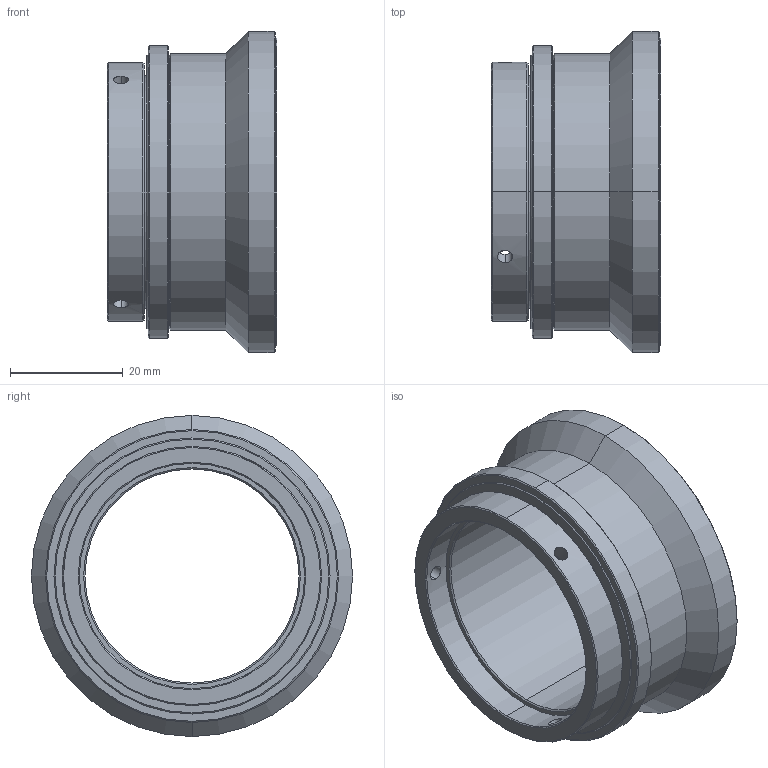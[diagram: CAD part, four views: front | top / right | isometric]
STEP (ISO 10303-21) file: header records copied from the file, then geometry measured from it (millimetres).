
FILE_DESCRIPTION (( 'STEP AP203' ), '1' );
FILE_NAME ('VS-FR15-40V_M52.STEP', '2020-07-31T02:34:49', ( '' ), ( '' ), 'SwSTEP 2.0', 'SolidWorks 2020', '' );
FILE_SCHEMA (( 'CONFIG_CONTROL_DESIGN' ));
Length unit declared in the file: millimetre
Products named in the file (1): VS-FR15-40V_M52
Bounding box: 30 x 57 x 57 mm (x, y, z)
Volume: 22580.8 mm3; surface area: 13039.9 mm2
Topology: 1 solids, 1 shells, 66 faces, 138 edges, 82 vertices
Faces by surface type: cone 30, cylinder 26, plane 10
Entity records: 2085 total; most frequent: CARTESIAN_POINT 551, DIRECTION 330, ORIENTED_EDGE 276, EDGE_CURVE 138, AXIS2_PLACEMENT_3D 137, EDGE_LOOP 82, VERTEX_POINT 82, CIRCLE 70
